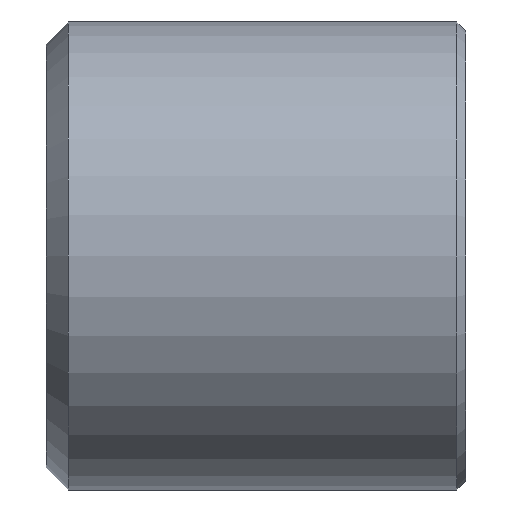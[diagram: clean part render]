
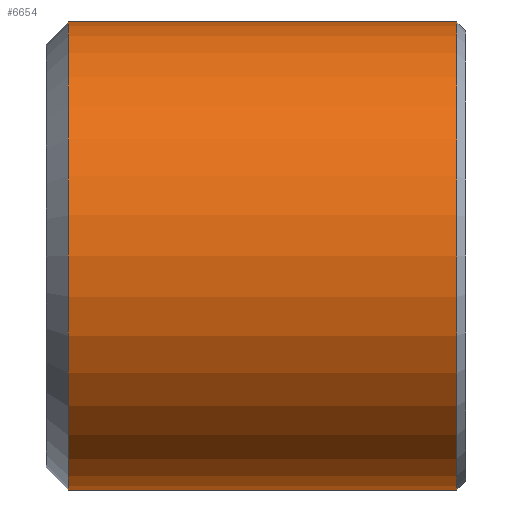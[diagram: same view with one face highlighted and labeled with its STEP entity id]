
A CAD part, left-side view. The second image highlights one B-rep face of the part: STEP entity #6654.
In plain terms, the highlighted cylindrical face has radius 5.3 mm (diameter 10.6 mm), a full revolution.
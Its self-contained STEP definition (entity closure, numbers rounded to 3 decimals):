
#564=VECTOR('',#7465,1.);
#565=VECTOR('',#7468,1.);
#1041=LINE('',#11431,#564);
#1042=LINE('',#11436,#565);
#2461=VERTEX_POINT('',#11427);
#2462=VERTEX_POINT('',#11430);
#2463=VERTEX_POINT('',#11432);
#2464=VERTEX_POINT('',#11433);
#2465=VERTEX_POINT('',#11435);
#2466=VERTEX_POINT('',#11437);
#2523=CIRCLE('',#6808,5.3);
#2524=CIRCLE('',#6810,5.3);
#2525=CIRCLE('',#6811,5.3);
#2526=CIRCLE('',#6812,5.3);
#3457=EDGE_CURVE('',#2461,#2461,#2523,.T.);
#3458=EDGE_CURVE('',#2462,#2462,#2524,.T.);
#3459=EDGE_CURVE('',#2463,#2464,#1041,.T.);
#3460=EDGE_CURVE('',#2465,#2463,#2525,.T.);
#3461=EDGE_CURVE('',#2465,#2466,#1042,.T.);
#3462=EDGE_CURVE('',#2466,#2464,#2526,.T.);
#5328=ORIENTED_EDGE('',*,*,#3458,.F.);
#5329=ORIENTED_EDGE('',*,*,#3459,.F.);
#5330=ORIENTED_EDGE('',*,*,#3460,.F.);
#5331=ORIENTED_EDGE('',*,*,#3461,.T.);
#5332=ORIENTED_EDGE('',*,*,#3462,.T.);
#5333=ORIENTED_EDGE('',*,*,#3457,.F.);
#5841=EDGE_LOOP('',(#5328));
#5842=EDGE_LOOP('',(#5329,#5330,#5331,#5332));
#5843=EDGE_LOOP('',(#5333));
#6264=FACE_BOUND('',#5841,.T.);
#6265=FACE_BOUND('',#5842,.T.);
#6266=FACE_BOUND('',#5843,.T.);
#6654=ADVANCED_FACE('',(#6264,#6265,#6266),#11673,.T.);
#6808=AXIS2_PLACEMENT_3D('',#11426,#7459,#7460);
#6809=AXIS2_PLACEMENT_3D('',#11428,#7461,#7462);
#6810=AXIS2_PLACEMENT_3D('',#11429,#7463,#7464);
#6811=AXIS2_PLACEMENT_3D('',#11434,#7466,#7467);
#6812=AXIS2_PLACEMENT_3D('',#11438,#7469,#7470);
#7459=DIRECTION('',(0.,1.,0.));
#7460=DIRECTION('',(-5.3,0.,0.));
#7461=DIRECTION('',(0.,1.,0.));
#7462=DIRECTION('',(5.3,0.,0.));
#7463=DIRECTION('',(0.,-1.,0.));
#7464=DIRECTION('',(-5.3,0.,0.));
#7465=DIRECTION('',(0.,1.,0.));
#7466=DIRECTION('',(0.,1.,0.));
#7467=DIRECTION('',(5.3,0.,0.));
#7468=DIRECTION('',(0.,1.,0.));
#7469=DIRECTION('',(0.,1.,0.));
#7470=DIRECTION('',(5.3,0.,0.));
#11426=CARTESIAN_POINT('',(0.,9.,0.));
#11427=CARTESIAN_POINT('',(5.3,9.,0.));
#11428=CARTESIAN_POINT('',(0.,0.,0.));
#11429=CARTESIAN_POINT('',(0.,0.2,0.));
#11430=CARTESIAN_POINT('',(5.3,0.2,0.));
#11431=CARTESIAN_POINT('',(2.639,0.,-4.596));
#11432=CARTESIAN_POINT('',(2.639,0.5,-4.596));
#11433=CARTESIAN_POINT('',(2.639,6.,-4.596));
#11434=CARTESIAN_POINT('',(0.,0.5,0.));
#11435=CARTESIAN_POINT('',(2.639,0.5,4.596));
#11436=CARTESIAN_POINT('',(2.639,0.,4.596));
#11437=CARTESIAN_POINT('',(2.639,6.,4.596));
#11438=CARTESIAN_POINT('',(0.,6.,0.));
#11673=CYLINDRICAL_SURFACE('',#6809,5.3);
